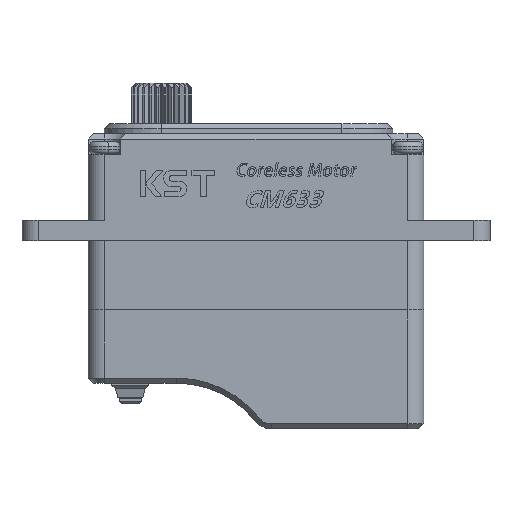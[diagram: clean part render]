
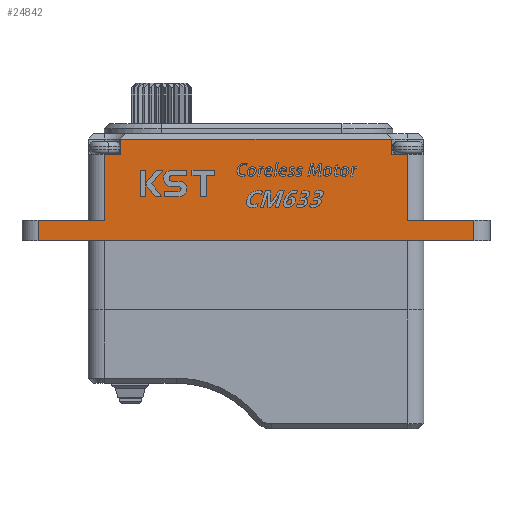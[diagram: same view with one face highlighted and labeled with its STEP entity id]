
A CAD part, front view. The second image highlights one B-rep face of the part: STEP entity #24842.
In plain terms, the highlighted planar face has unit normal (0, -1, 0).
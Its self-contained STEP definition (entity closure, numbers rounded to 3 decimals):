
#205 = VERTEX_POINT ( 'NONE', #2558 ) ;
#256 = ORIENTED_EDGE ( 'NONE', *, *, #20813, .T. ) ;
#276 = VECTOR ( 'NONE', #7956, 1000. ) ;
#767 = LINE ( 'NONE', #1363, #3068 ) ;
#974 = VERTEX_POINT ( 'NONE', #3256 ) ;
#1014 = EDGE_CURVE ( 'NONE', #2659, #18259, #15318, .T. ) ;
#1068 = ORIENTED_EDGE ( 'NONE', *, *, #10587, .T. ) ;
#1363 = CARTESIAN_POINT ( 'NONE',  ( -62.474, 3.721, 9.6 ) ) ;
#1424 = LINE ( 'NONE', #7738, #276 ) ;
#1797 = DIRECTION ( 'NONE',  ( 0., 0., -1. ) ) ;
#2012 = LINE ( 'NONE', #16526, #16295 ) ;
#2048 = CARTESIAN_POINT ( 'NONE',  ( -89.074, 3.721, 9.6 ) ) ;
#2500 = CARTESIAN_POINT ( 'NONE',  ( -89.074, 3.721, 11.1 ) ) ;
#2524 = CARTESIAN_POINT ( 'NONE',  ( -97.174, 3.721, 3.1 ) ) ;
#2528 = ORIENTED_EDGE ( 'NONE', *, *, #22265, .F. ) ;
#2558 = CARTESIAN_POINT ( 'NONE',  ( -89.074, 3.721, 9.6 ) ) ;
#2659 = VERTEX_POINT ( 'NONE', #26998 ) ;
#3068 = VECTOR ( 'NONE', #3769, 1000. ) ;
#3256 = CARTESIAN_POINT ( 'NONE',  ( -54.374, 3.721, 3.1 ) ) ;
#3430 = VERTEX_POINT ( 'NONE', #4310 ) ;
#3769 = DIRECTION ( 'NONE',  ( 1., 0., 0. ) ) ;
#4281 = VECTOR ( 'NONE', #4754, 1000. ) ;
#4310 = CARTESIAN_POINT ( 'NONE',  ( -60.874, 3.721, 9.6 ) ) ;
#4657 = AXIS2_PLACEMENT_3D ( 'NONE', #8649, #13460, #1797 ) ;
#4754 = DIRECTION ( 'NONE',  ( 0., 0., 1. ) ) ;
#4886 = DIRECTION ( 'NONE',  ( 1., 0., 0. ) ) ;
#4906 = ORIENTED_EDGE ( 'NONE', *, *, #1014, .T. ) ;
#5030 = ORIENTED_EDGE ( 'NONE', *, *, #8056, .T. ) ;
#5457 = ORIENTED_EDGE ( 'NONE', *, *, #6426, .F. ) ;
#5951 = FACE_OUTER_BOUND ( 'NONE', #25148, .T. ) ;
#6371 = VECTOR ( 'NONE', #23691, 1000. ) ;
#6426 = EDGE_CURVE ( 'NONE', #24770, #3430, #767, .T. ) ;
#7014 = VECTOR ( 'NONE', #15639, 1000. ) ;
#7738 = CARTESIAN_POINT ( 'NONE',  ( -52.774, 3.721, 3.1 ) ) ;
#7956 = DIRECTION ( 'NONE',  ( -1., 0., 0. ) ) ;
#7983 = ORIENTED_EDGE ( 'NONE', *, *, #22526, .F. ) ;
#8056 = EDGE_CURVE ( 'NONE', #15068, #23641, #13562, .T. ) ;
#8649 = CARTESIAN_POINT ( 'NONE',  ( -59.274, 3.721, 2.6 ) ) ;
#9488 = ORIENTED_EDGE ( 'NONE', *, *, #28865, .T. ) ;
#9957 = CARTESIAN_POINT ( 'NONE',  ( -90.674, 3.721, 9.6 ) ) ;
#10587 = EDGE_CURVE ( 'NONE', #24770, #15068, #22707, .T. ) ;
#10702 = CARTESIAN_POINT ( 'NONE',  ( -75.774, 3.721, 1.1 ) ) ;
#11570 = EDGE_CURVE ( 'NONE', #205, #23641, #25579, .T. ) ;
#11652 = VECTOR ( 'NONE', #27513, 1000. ) ;
#12150 = VECTOR ( 'NONE', #15261, 1000. ) ;
#12535 = CARTESIAN_POINT ( 'NONE',  ( -90.674, 3.721, 3.1 ) ) ;
#12778 = ORIENTED_EDGE ( 'NONE', *, *, #24227, .F. ) ;
#12828 = CARTESIAN_POINT ( 'NONE',  ( -54.374, 3.721, 3.1 ) ) ;
#12852 = VERTEX_POINT ( 'NONE', #16954 ) ;
#13460 = DIRECTION ( 'NONE',  ( 0., 1., 0. ) ) ;
#13562 = LINE ( 'NONE', #2500, #17694 ) ;
#13613 = ORIENTED_EDGE ( 'NONE', *, *, #11570, .F. ) ;
#13734 = LINE ( 'NONE', #10702, #19388 ) ;
#13907 = VERTEX_POINT ( 'NONE', #20625 ) ;
#13992 = EDGE_CURVE ( 'NONE', #14036, #22438, #2012, .T. ) ;
#14036 = VERTEX_POINT ( 'NONE', #2524 ) ;
#14076 = VECTOR ( 'NONE', #4886, 1000. ) ;
#15068 = VERTEX_POINT ( 'NONE', #24936 ) ;
#15261 = DIRECTION ( 'NONE',  ( 0., 0., 1. ) ) ;
#15318 = LINE ( 'NONE', #15646, #25090 ) ;
#15639 = DIRECTION ( 'NONE',  ( 0., 0., 1. ) ) ;
#15646 = CARTESIAN_POINT ( 'NONE',  ( -90.674, 3.721, 2.6 ) ) ;
#15816 = CARTESIAN_POINT ( 'NONE',  ( -97.174, 3.721, 1.1 ) ) ;
#15975 = PLANE ( 'NONE',  #4657 ) ;
#16295 = VECTOR ( 'NONE', #30701, 1000. ) ;
#16526 = CARTESIAN_POINT ( 'NONE',  ( -97.174, 3.721, 1.1 ) ) ;
#16954 = CARTESIAN_POINT ( 'NONE',  ( -54.374, 3.721, 1.1 ) ) ;
#17111 = DIRECTION ( 'NONE',  ( -1., 0., 0. ) ) ;
#17333 = CARTESIAN_POINT ( 'NONE',  ( -89.074, 3.721, 11.1 ) ) ;
#17694 = VECTOR ( 'NONE', #17111, 1000. ) ;
#17762 = CARTESIAN_POINT ( 'NONE',  ( -60.874, 3.721, 2.6 ) ) ;
#18022 = LINE ( 'NONE', #29705, #11652 ) ;
#18161 = LINE ( 'NONE', #12828, #12150 ) ;
#18259 = VERTEX_POINT ( 'NONE', #12535 ) ;
#19385 = CARTESIAN_POINT ( 'NONE',  ( -62.474, 3.721, 9.6 ) ) ;
#19388 = VECTOR ( 'NONE', #20056, 1000. ) ;
#20056 = DIRECTION ( 'NONE',  ( -1., 0., 0. ) ) ;
#20457 = ORIENTED_EDGE ( 'NONE', *, *, #29987, .T. ) ;
#20625 = CARTESIAN_POINT ( 'NONE',  ( -60.874, 3.721, 3.1 ) ) ;
#20813 = EDGE_CURVE ( 'NONE', #974, #13907, #1424, .T. ) ;
#21915 = ORIENTED_EDGE ( 'NONE', *, *, #13992, .T. ) ;
#22265 = EDGE_CURVE ( 'NONE', #12852, #22438, #13734, .T. ) ;
#22438 = VERTEX_POINT ( 'NONE', #15816 ) ;
#22526 = EDGE_CURVE ( 'NONE', #2659, #205, #30612, .T. ) ;
#22707 = LINE ( 'NONE', #19385, #4281 ) ;
#23641 = VERTEX_POINT ( 'NONE', #17333 ) ;
#23691 = DIRECTION ( 'NONE',  ( 0., 0., 1. ) ) ;
#24227 = EDGE_CURVE ( 'NONE', #14036, #18259, #18022, .T. ) ;
#24685 = LINE ( 'NONE', #17762, #7014 ) ;
#24770 = VERTEX_POINT ( 'NONE', #25669 ) ;
#24842 = ADVANCED_FACE ( 'NONE', ( #5951 ), #15975, .F. ) ;
#24936 = CARTESIAN_POINT ( 'NONE',  ( -62.474, 3.721, 11.1 ) ) ;
#25090 = VECTOR ( 'NONE', #25216, 1000. ) ;
#25148 = EDGE_LOOP ( 'NONE', ( #1068, #5030, #13613, #7983, #4906, #12778, #21915, #2528, #20457, #256, #9488, #5457 ) ) ;
#25216 = DIRECTION ( 'NONE',  ( 0., 0., -1. ) ) ;
#25579 = LINE ( 'NONE', #2048, #6371 ) ;
#25669 = CARTESIAN_POINT ( 'NONE',  ( -62.474, 3.721, 9.6 ) ) ;
#26998 = CARTESIAN_POINT ( 'NONE',  ( -90.674, 3.721, 9.6 ) ) ;
#27513 = DIRECTION ( 'NONE',  ( 1., 0., 0. ) ) ;
#28865 = EDGE_CURVE ( 'NONE', #13907, #3430, #24685, .T. ) ;
#29705 = CARTESIAN_POINT ( 'NONE',  ( -98.774, 3.721, 3.1 ) ) ;
#29987 = EDGE_CURVE ( 'NONE', #12852, #974, #18161, .T. ) ;
#30612 = LINE ( 'NONE', #9957, #14076 ) ;
#30701 = DIRECTION ( 'NONE',  ( 0., 0., -1. ) ) ;
